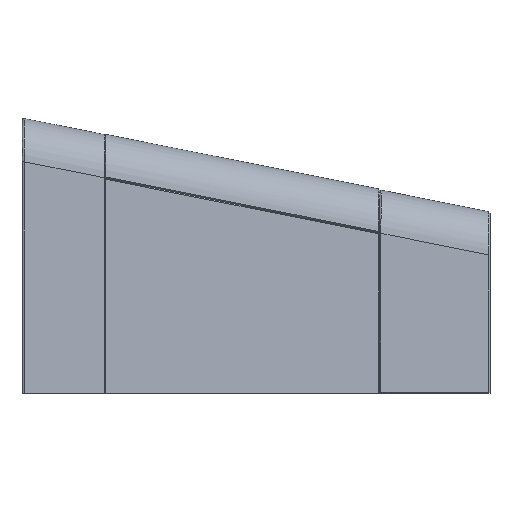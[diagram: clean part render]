
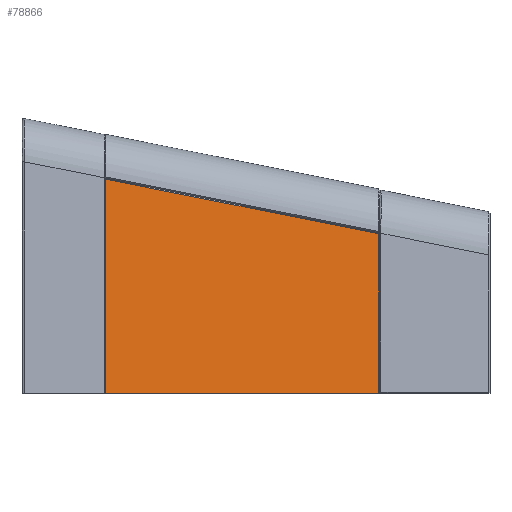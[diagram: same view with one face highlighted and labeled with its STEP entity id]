
A CAD part, left-side view. The second image highlights one B-rep face of the part: STEP entity #78866.
In plain terms, the highlighted planar face has unit normal (-0.981, -0.196, 0) as drawn and (0.981, 0, 0.196) by its records, which use the part's own axes.
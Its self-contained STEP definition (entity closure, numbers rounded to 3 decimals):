
#135 = ORIENTED_EDGE ( 'NONE', *, *, #10928, .F. ) ;
#3890 = FACE_OUTER_BOUND ( 'NONE', #91723, .T. ) ;
#7392 = CARTESIAN_POINT ( 'NONE',  ( 195.5, -39.932, 497.5 ) ) ;
#8478 = LINE ( 'NONE', #9044, #103890 ) ;
#9044 = CARTESIAN_POINT ( 'NONE',  ( 294.667, 250., 1.667 ) ) ;
#10928 = EDGE_CURVE ( 'NONE', #80665, #48507, #24208, .T. ) ;
#13490 = CARTESIAN_POINT ( 'NONE',  ( 195.5, -39.932, 497.5 ) ) ;
#14102 = CARTESIAN_POINT ( 'NONE',  ( 294.667, -139.099, 1.667 ) ) ;
#18740 = EDGE_CURVE ( 'NONE', #80665, #110778, #8478, .T. ) ;
#23311 = CARTESIAN_POINT ( 'NONE',  ( 195.5, 250., 497.5 ) ) ;
#24208 = LINE ( 'NONE', #32098, #69275 ) ;
#25562 = LINE ( 'NONE', #44612, #53596 ) ;
#32098 = CARTESIAN_POINT ( 'NONE',  ( 294.667, -690., 1.667 ) ) ;
#33038 = DIRECTION ( 'NONE',  ( 0.196, 0., -0.981 ) ) ;
#33884 = ORIENTED_EDGE ( 'NONE', *, *, #18740, .T. ) ;
#41453 = PLANE ( 'NONE',  #80764 ) ;
#43960 = CARTESIAN_POINT ( 'NONE',  ( 294.667, 250., 1.667 ) ) ;
#44612 = CARTESIAN_POINT ( 'NONE',  ( 195.5, -690., 497.5 ) ) ;
#47408 = EDGE_CURVE ( 'NONE', #110778, #109809, #25562, .T. ) ;
#48507 = VERTEX_POINT ( 'NONE', #14102 ) ;
#48776 = CARTESIAN_POINT ( 'NONE',  ( 295., -690., 0. ) ) ;
#53596 = VECTOR ( 'NONE', #79962, 1000. ) ;
#58801 = VECTOR ( 'NONE', #93831, 1000. ) ;
#62475 = EDGE_CURVE ( 'NONE', #109809, #48507, #84299, .T. ) ;
#68544 = DIRECTION ( 'NONE',  ( -0.196, 0., 0.981 ) ) ;
#69275 = VECTOR ( 'NONE', #74748, 1000. ) ;
#74748 = DIRECTION ( 'NONE',  ( 0., -1., 0. ) ) ;
#78866 = ADVANCED_FACE ( 'NONE', ( #3890 ), #41453, .T. ) ;
#79962 = DIRECTION ( 'NONE',  ( 0., -1., 0. ) ) ;
#80665 = VERTEX_POINT ( 'NONE', #43960 ) ;
#80764 = AXIS2_PLACEMENT_3D ( 'NONE', #48776, #110495, #33038 ) ;
#84299 = LINE ( 'NONE', #7392, #58801 ) ;
#91723 = EDGE_LOOP ( 'NONE', ( #135, #33884, #107606, #107121 ) ) ;
#93831 = DIRECTION ( 'NONE',  ( 0.192, -0.192, -0.962 ) ) ;
#103890 = VECTOR ( 'NONE', #68544, 1000. ) ;
#107121 = ORIENTED_EDGE ( 'NONE', *, *, #62475, .T. ) ;
#107606 = ORIENTED_EDGE ( 'NONE', *, *, #47408, .T. ) ;
#109809 = VERTEX_POINT ( 'NONE', #13490 ) ;
#110495 = DIRECTION ( 'NONE',  ( 0.981, 0., 0.196 ) ) ;
#110778 = VERTEX_POINT ( 'NONE', #23311 ) ;
